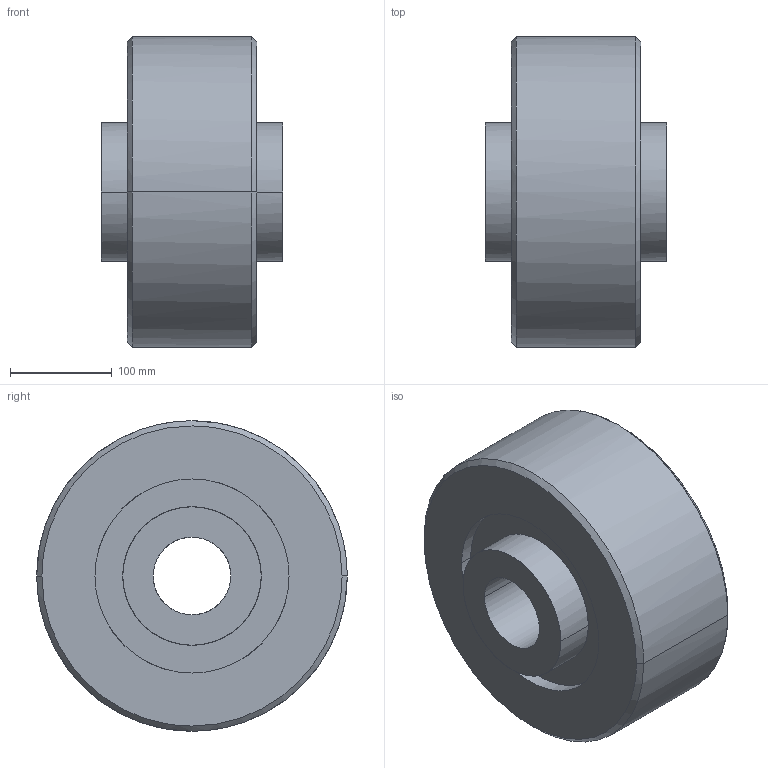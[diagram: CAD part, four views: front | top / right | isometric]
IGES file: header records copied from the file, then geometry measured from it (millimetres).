
Global section: native system: Kubotek KeyCreator; preprocessor: KCM Version 1.1.1442.0; author: KeyCreator User; organization: Self; date: 20170712.055736; units: inch
Bounding box: 177.8 x 304.8 x 304.8 mm (x, y, z)
Surface area: 343095.7 mm2 (no closed solid volume)
Topology: 0 solids, 0 shells, 22 faces, 144 edges, 144 vertices
Faces by surface type: bspline 22
